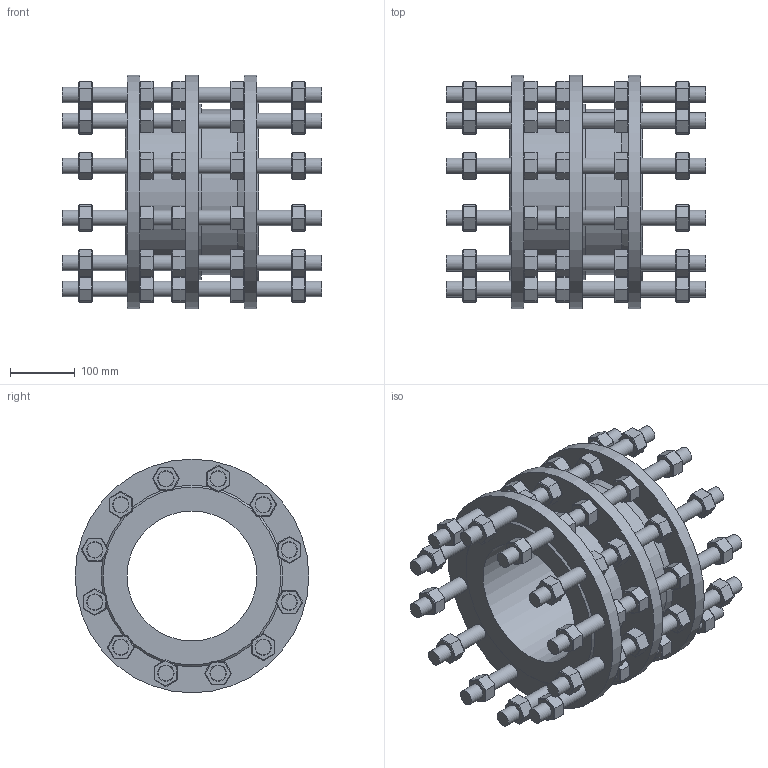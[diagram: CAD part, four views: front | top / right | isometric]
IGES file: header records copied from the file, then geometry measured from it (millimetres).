
Start section: SolidWorks IGES file using analytic representation for surfaces
Global section: file name: X:\AR\CV\873\873-0200-00-741000\873020000741000.IGS; native system: SolidWorks 2020; preprocessor: SolidWorks 2020; author: m.lucatello; date: 211105.094050; units: millimetre
Bounding box: 400 x 360 x 360 mm (x, y, z)
Surface area: 1279817.7 mm2 (no closed solid volume)
Topology: 0 solids, 0 shells, 1471 faces, 6034 edges, 5796 vertices
Faces by surface type: bspline 1233, revolution 238
